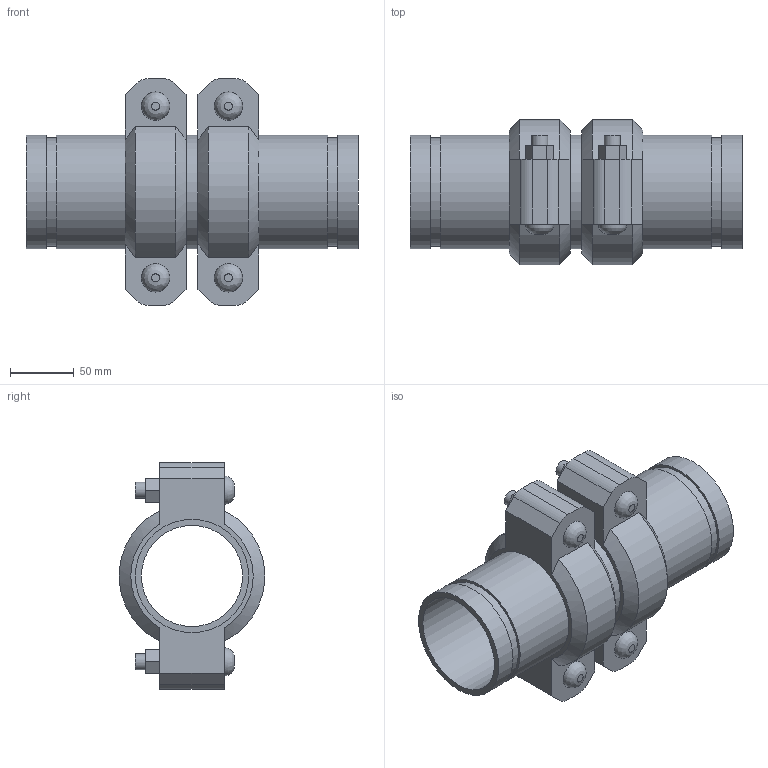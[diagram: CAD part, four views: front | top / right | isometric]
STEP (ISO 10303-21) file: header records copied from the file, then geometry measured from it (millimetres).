
FILE_DESCRIPTION(/* description */ ('VIC SS EXPANSION JOINT 2 COUPLINGS COMPRESSED STYLE 155P (OGS) (POTABLE WATER) ','CAx-IF Rec.Pracs.---Representation and Presentation of Product Manufacturing Information (PMI)---4.0---2014-10-13'),/* implementation_level */ '2;1');
FILE_NAME(/* name */ 'C:\Users\kkamble\AppData\Roaming\Autodesk\ApplicationPlugins\Victaulic.Temp\A462\Victaulic_SS_Expansion Joint_Compressed_2 Couplings_Style 155P (OGS)-Potable Water_2 Coup_Comp_3 (80).stp',/* time_stamp */ '2021-07-16T17:09:30+06:00',/* author */ ('kkamble'),/* organization */ ('Victaulic'),/* preprocessor_version */ 'ST-DEVELOPER v17.2',/* originating_system */ 'Autodesk Inventor 2019',/* authorisation */ '');
FILE_SCHEMA (('AP242_MANAGED_MODEL_BASED_3D_ENGINEERING_MIM_LF { 1 0 10303 442 1 1 4 }'));
Length unit declared in the file: inch
Products named in the file (4): 155P-03.0; Nipple-03.0; Nipple-03.0_1; 075-03.0
Assembly tree (5 placements, depth 2):
  155P-03.0
    Nipple-03.0  x2
    Nipple-03.0_1
    075-03.0  x2
Bounding box: 260.35 x 113.88 x 177.8 mm (x, y, z)
Volume: 967208.1 mm3; surface area: 269767.2 mm2
Topology: 5 solids, 9 shells, 142 faces, 344 edges, 244 vertices
Faces by surface type: plane 86, cylinder 44, cone 8, bspline 4
Full cylindrical faces by diameter (mm): 12.7 x8, 14.605 x4, 79.35 x3, 84.938 x6, 88.9 x11
Entity records: 2641 total; most frequent: CARTESIAN_POINT 475, DIRECTION 435, ORIENTED_EDGE 374, EDGE_CURVE 187, AXIS2_PLACEMENT_3D 172, VERTEX_POINT 134, EDGE_LOOP 101, LINE 91
